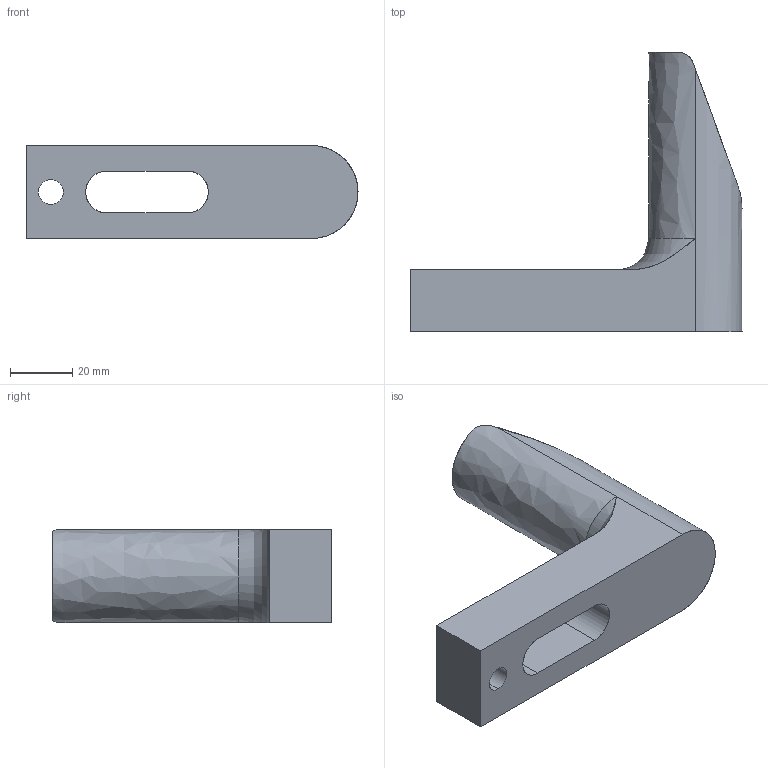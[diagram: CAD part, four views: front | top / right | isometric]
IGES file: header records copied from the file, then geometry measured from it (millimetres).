
Start section: START RECORD GO HERE.
Global section: file name: 702-3.igs; native system: DASSAULT SYSTEMES CATIA V5 R20 - www.3ds.com; preprocessor: CATIA Version 5 Release 20 ; author: Utente; organization: NB04-ASUS; date: 20200410.183148; units: millimetre
Bounding box: 107 x 90 x 30 mm (x, y, z)
Surface area: 18507.6 mm2 (no closed solid volume)
Topology: 0 solids, 0 shells, 18 faces, 95 edges, 95 vertices
Faces by surface type: revolution 9, extrusion 9
